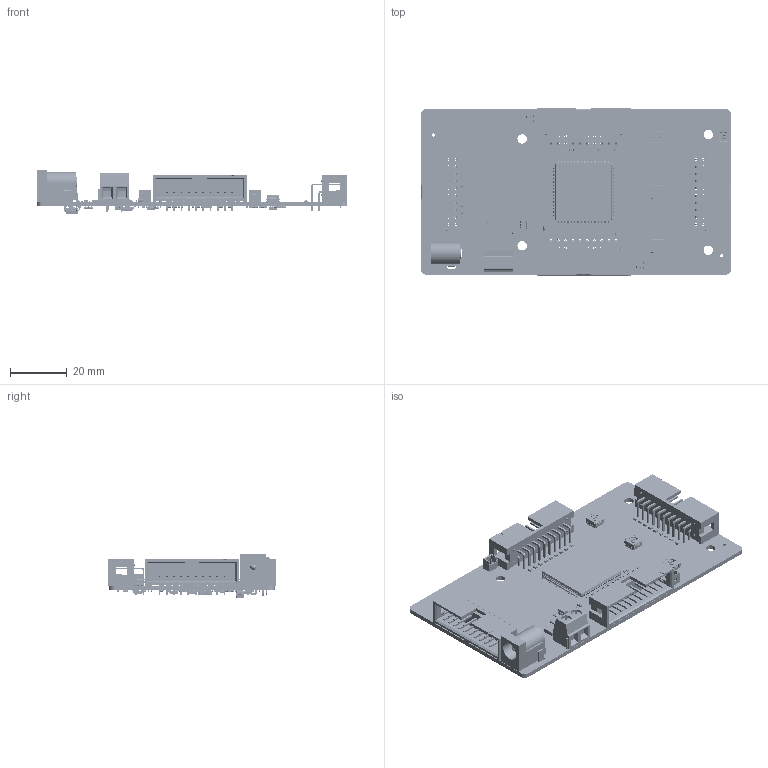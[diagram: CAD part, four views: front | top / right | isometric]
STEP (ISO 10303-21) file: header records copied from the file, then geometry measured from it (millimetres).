
FILE_DESCRIPTION (( 'STEP AP214' ), '1' );
FILE_NAME ('PCA0023_rev3.STEP', '2024-11-20T17:19:32', ( '' ), ( '' ), 'SwSTEP 2.0', 'SolidWorks 2024', '' );
FILE_SCHEMA (( 'AUTOMOTIVE_DESIGN' ));
Length unit declared in the file: millimetre
Products named in the file (374): C47; C54; User Library-SOIC8_JEDEC_MS-012AA; D6-subassembly-1; 9403219184-6; Leader; 7338101024-3; 9403219184-5; Terminal-3; C16; R4; P3; D37-subassembly-1; FRAME_RUG0010A-Part-8; R83; R28; Open CASCADE STEP translator 6.8 3.1.1-3; U5-subassembly-1; C2; D30; CS-4-14NA Body; Open CASCADE STEP translator 6.8 3.1.2-1; D11; C52; R27; D5-subassembly-1; 7338102864; Open CASCADE STEP translator 6.8 4.1.1-1; CS-4-14NA9 Dial; R15; 9403561904-2; Open CASCADE STEP translator 6.8 3.1.2; U11; 7338106144-3; C19; User Library-DC-10A-2; D34; R11; R92; Open CASCADE STEP translator 6.8 3.2.1-3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
Assembly tree (779 placements, depth 5):
  PCA0023_rev3
    C22
      7338102864
        Mid_Body
          Open CASCADE STEP translator 6.8 3.2.1
        Terminal
          Open CASCADE STEP translator 6.8 3.1.2
          Open CASCADE STEP translator 6.8 3.1.1
    X1
      X1-subassembly-1
        User Library-tsx-3225
        User Library-tsx-3225-1
        User Library-tsx-3225-2
        User Library-tsx-3225-3
        User Library-tsx-3225-4
    U8
      User Library-SSOP-8-P-0_65
    U7
      User Library-SOIC8_JEDEC_MS-012AA
    U1
      User Library-LQFP144-3
        User Library-LQFP144-3_circle
        User Library-LQFP144-3_pin  x144
        User Library-LQFP144-3_case
    R28
      7338104544
        Terminal-1  x2
          Open CASCADE STEP translator 6.8 7.2.1
        Mark
        Mid_Body
    R27
      7338101424
        Terminal-2  x2
          Open CASCADE STEP translator 6.8 7.2.1-1
        Mark-1
        Mid_Body-1
    R24
      7338101424
        Terminal-2  x2
          Open CASCADE STEP translator 6.8 7.2.1-1
        Mark-1
        Mid_Body-1
    R23
      7338101424
        Terminal-2  x2
          Open CASCADE STEP translator 6.8 7.2.1-1
        Mark-1
        Mid_Body-1
    R25
      7338101424
        Terminal-2  x2
          Open CASCADE STEP translator 6.8 7.2.1-1
        Mark-1
        Mid_Body-1
    R22
      7338108064
        Terminal-3  x2
          Open CASCADE STEP translator 6.8 7.2.1-2
        Mark-2
        Mid_Body-2
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Bounding box: 109.19 x 58.67 x 15.3 mm (x, y, z)
Volume: 18508.1 mm3; surface area: 29942.8 mm2
Topology: 735 solids, 735 shells, 13780 faces, 34048 edges, 21172 vertices
Faces by surface type: plane 8588, cylinder 3634, sphere 680, bspline 521, torus 353, cone 4
Entity records: 136608 total; most frequent: CARTESIAN_POINT 29225, DIRECTION 17897, ORIENTED_EDGE 16744, EDGE_CURVE 8372, AXIS2_PLACEMENT_3D 6177, LINE 5543, VECTOR 5543, VERTEX_POINT 5324
